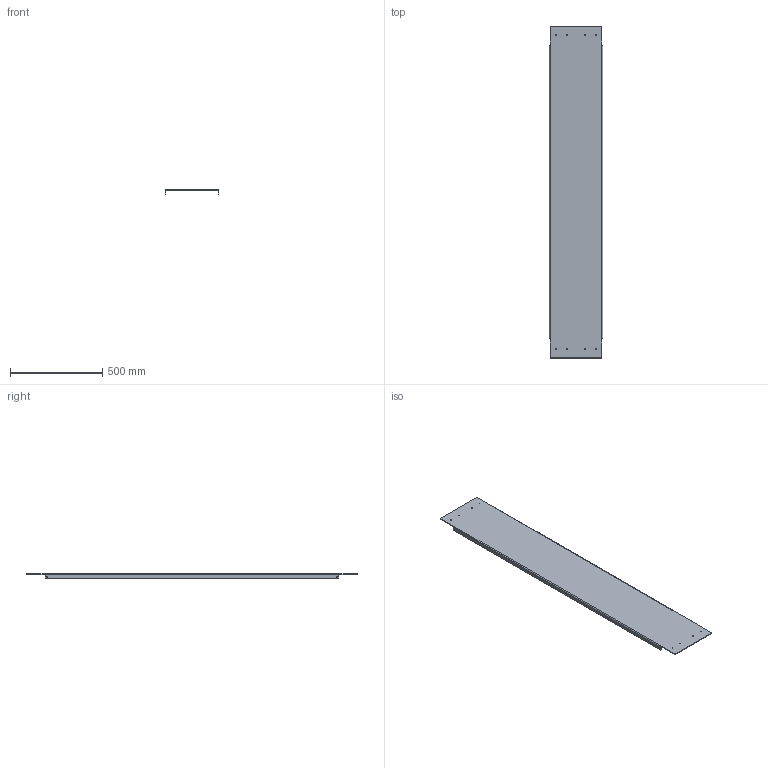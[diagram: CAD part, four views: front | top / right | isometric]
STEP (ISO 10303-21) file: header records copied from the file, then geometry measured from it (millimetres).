
FILE_DESCRIPTION(('HOOPS Exchange Step'),'2;1');
FILE_NAME('/private/var/mobile/Containers/Data/Application/E4481369-A8C6-45C6-A958-B1853E49479D/tmp/export/temp_export','2021-04-12T21:16:22+00:00',('mobile'),('Shapr3D Limited'),'HOOPS Exchange 2020.2','Shapr3D','Authorized');
FILE_SCHEMA( ('AP203_CONFIGURATION_CONTROLLED_3D_DESIGN_OF_MECHANICAL_PARTS_AND_ASSEMBLIES_MIM_LF') );
Length unit declared in the file: millimetre
Products named in the file (2): 0; /private/var/mobile/Containers/Data/Application/E4481369-A8C6-45C6-A958-B1853E49479D/tmp/4256321B-CE63-4491-92FA-9B185419C27E.tmp
Assembly tree (1 placements, depth 2):
  /private/var/mobile/Containers/Data/Application/E4481369-A8C6-45C6-A958-B1853E49479D/tmp/4256321B-CE63-4491-92FA-9B185419C27E.tmp
    0
Bounding box: 290 x 1800 x 24 mm (x, y, z)
Volume: 2316974.7 mm3; surface area: 1176277.2 mm2
Topology: 1 solids, 1 shells, 42 faces, 128 edges, 88 vertices
Faces by surface type: cylinder 24, plane 18
Full cylindrical faces by diameter (mm): 5.2 x12
Entity records: 1575 total; most frequent: DIRECTION 282, CARTESIAN_POINT 261, ORIENTED_EDGE 256, EDGE_CURVE 128, AXIS2_PLACEMENT_3D 109, VERTEX_POINT 88, EDGE_LOOP 66, FACE_BOUND 66
